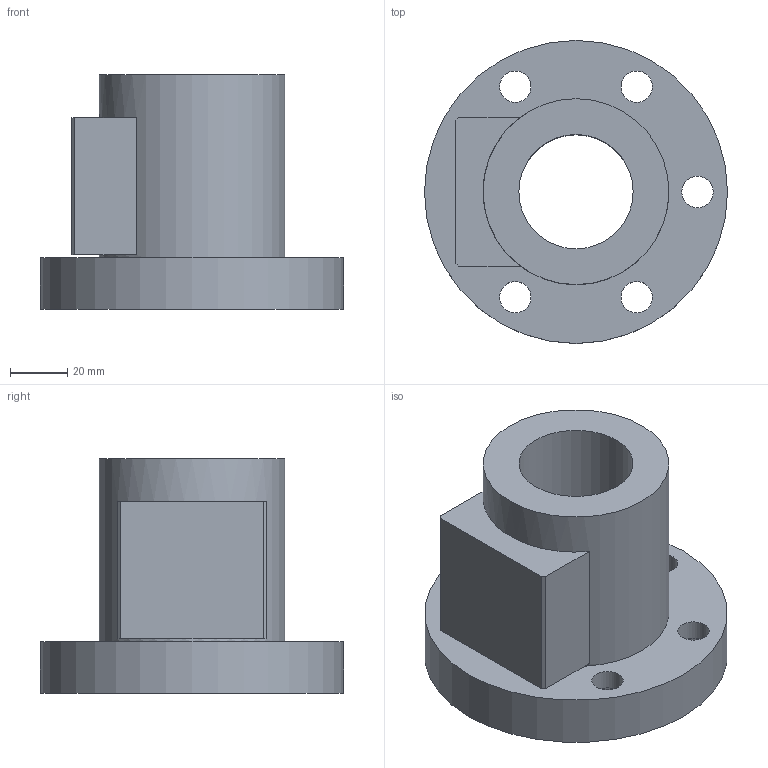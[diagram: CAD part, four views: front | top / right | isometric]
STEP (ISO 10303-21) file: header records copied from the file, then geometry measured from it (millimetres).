
FILE_DESCRIPTION(/* description */ (''),/* implementation_level */ '2;1');
FILE_NAME(/* name */ '40-10C1',/* time_stamp */ '2006-07-31T10:07:21+08:00',/* author */ (''),/* organization */ (''),/* preprocessor_version */ 'ST-DEVELOPER v9',/* originating_system */ 'UGS - NX 4.0',/* authorisation */ '');
FILE_SCHEMA (('CONFIG_CONTROL_DESIGN'));
Length unit declared in the file: millimetre
Products named in the file (1): 40-10C1
Bounding box: 106 x 106 x 82 mm (x, y, z)
Volume: 285051.6 mm3; surface area: 50886.5 mm2
Topology: 1 solids, 1 shells, 28 faces, 61 edges, 42 vertices
Faces by surface type: plane 15, cylinder 13
Full cylindrical faces by diameter (mm): 11 x5, 17.5 x5, 40 x1, 65 x1, 106 x1
Entity records: 794 total; most frequent: DIRECTION 130, CARTESIAN_POINT 111, ORIENTED_EDGE 88, EDGE_LOOP 60, AXIS2_PLACEMENT_3D 57, FACE_BOUND 45, EDGE_CURVE 44, VERTEX_POINT 38
